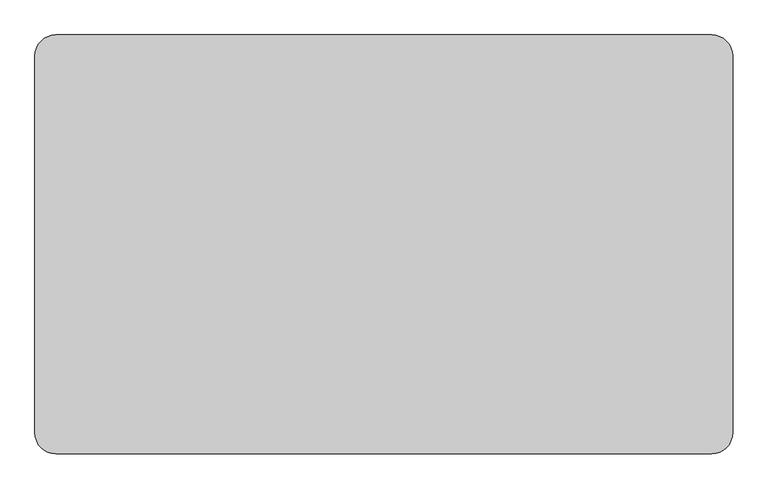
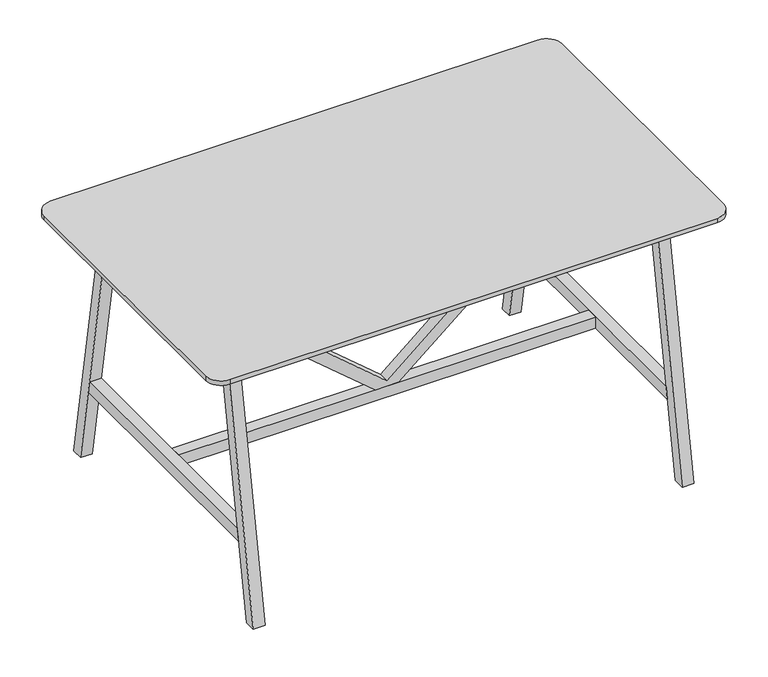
"""IFC4 building model written with IfcOpenShell, lengths in millimetres: furniture geometry, BDG_BossDesign_Tbls_AgentTables4Legs : AGE-HT-2000-1200-3D."""

from ifc_helpers import new_model, si_unit, point, frame, frame_2d, origin, place, context, project, spatial, polyline, circle_curve, trimmed, segment, composite_curve, outline, extrude, source, transform, mapped, element, save


def furniture_14f1f2da(model_context):
    return source(origin(), model_context, "Body", "SweptSolid", [
        extrude(outline(polyline([(1029.0, -805.0), (985.6193848, -805.0), (345.0, -44.0212994), (345.0, 44.0212994), (985.6193848, 805.0), (1029.0, 805.0), (1029.0, 785.1023991), (364.9999695, 0.0), (1029.0, -785.1023991), (1029.0, -805.0)])), frame((0.0, -22.5000305, 0.0), z_axis=(0.0, 1.0, 0.0), x_axis=(0.0, 0.0, 1.0)), (0.0, 0.0, 1.0), 45.000061),
        extrude(outline(polyline([(-494.7139143, 345.0), (494.7139143, 345.0), (502.5773161, 300.0), (-502.5773161, 300.0), (-494.7139143, 345.0)])), frame((805.0, 0.0, 0.0), z_axis=(1.0, 0.0, 0.0), x_axis=(0.0, 1.0, 0.0)), (0.0, 0.0, 1.0), 45.0),
        extrude(outline(polyline([(600.0, 0.0), (554.9999949, 0.0), (385.5, 970.0), (430.5000051, 970.0), (600.0, 0.0)])), frame((-850.0, 0.0, 0.0), z_axis=(1.0, 0.0, 0.0), x_axis=(0.0, 1.0, 0.0)), (0.0, 0.0, 1.0), 45.0),
        extrude(outline(polyline([(-600.0, 0.0), (-430.5000051, 970.0), (-385.5, 970.0), (-554.9999949, 0.0), (-600.0, 0.0)])), frame((-850.0, 0.0, 0.0), z_axis=(1.0, 0.0, 0.0), x_axis=(0.0, 1.0, 0.0)), (0.0, 0.0, 1.0), 45.0),
        extrude(outline(polyline([(-379.5, 1032.0), (379.5, 1032.0), (397.9691272, 960.0), (-397.9691272, 960.0), (-379.5, 1032.0)])), frame((388.0, 0.0, 0.0), z_axis=(1.0, 0.0, 0.0), x_axis=(0.0, 1.0, 0.0)), (0.0, 0.0, 1.0), 24.0),
        extrude(outline(polyline([(-494.7139143, 345.0), (494.7139143, 345.0), (502.5773161, 300.0), (-502.5773161, 300.0), (-494.7139143, 345.0)])), frame((-850.0, 0.0, 0.0), z_axis=(1.0, 0.0, 0.0), x_axis=(0.0, 1.0, 0.0)), (0.0, 0.0, 1.0), 45.0),
        extrude(outline(polyline([(-379.5, 1032.0), (379.5, 1032.0), (397.9691272, 960.0), (-397.9691272, 960.0), (-379.5, 1032.0)])), frame((-412.0, 0.0, 0.0), z_axis=(1.0, 0.0, 0.0), x_axis=(0.0, 1.0, 0.0)), (0.0, 0.0, 1.0), 24.0),
        extrude(outline(polyline([(-426.6006165, 944.973938), (-404.2770691, 1032.0), (-379.5, 1032.0), (-401.8235474, 944.973938), (-426.6006165, 944.973938)])), frame((-805.0, 0.0, 0.0), z_axis=(1.0, 0.0, 0.0), x_axis=(0.0, 1.0, 0.0)), (0.0, 0.0, 1.0), 1610.0),
        extrude(outline(polyline([(426.6006165, 944.973938), (401.8235474, 944.973938), (379.5, 1032.0), (404.2770691, 1032.0), (426.6006165, 944.973938)])), frame((-805.0, 0.0, 0.0), z_axis=(1.0, 0.0, 0.0), x_axis=(0.0, 1.0, 0.0)), (0.0, 0.0, 1.0), 1610.0),
        extrude(outline(polyline([(599.7999878, 0.0), (554.7999827, 0.0), (385.5, 970.0), (430.5000051, 970.0), (599.7999878, 0.0)])), frame((805.0, 0.0, 0.0), z_axis=(1.0, 0.0, 0.0), x_axis=(0.0, 1.0, 0.0)), (0.0, 0.0, 1.0), 45.0),
        extrude(outline(polyline([(-599.7999878, 0.0), (-430.5000051, 970.0), (-385.5, 970.0), (-554.7999827, 0.0), (-599.7999878, 0.0)])), frame((805.0, 0.0, 0.0), z_axis=(1.0, 0.0, 0.0), x_axis=(0.0, 1.0, 0.0)), (0.0, 0.0, 1.0), 45.0),
        extrude(outline(polyline([(805.0, 22.5000305), (805.0, -22.5000305), (-805.0, -22.5000305), (-805.0, 22.5000305), (805.0, 22.5000305)])), frame((0.0, 0.0, 300.0), z_axis=(0.0, 0.0, 1.0), x_axis=(1.0, 0.0, 0.0)), (0.0, 0.0, 1.0), 45.0),
        extrude(outline(composite_curve([segment(trimmed(circle_curve(frame_2d((940.0, 540.0)), 60.0), [point((940.0, 600.0))], [point((1000.0, 540.0))], False, "CARTESIAN"), True, "CONTINUOUS"), segment(polyline([(1000.0, 540.0), (1000.0, -540.0)]), True, "CONTINUOUS"), segment(trimmed(circle_curve(frame_2d((940.0, -540.0)), 60.0), [point((1000.0, -540.0))], [point((940.0, -600.0))], False, "CARTESIAN"), True, "CONTINUOUS"), segment(polyline([(940.0, -600.0), (-940.0, -600.0)]), True, "CONTINUOUS"), segment(trimmed(circle_curve(frame_2d((-940.0, -540.0)), 60.0), [point((-940.0, -600.0))], [point((-1000.0, -540.0))], False, "CARTESIAN"), True, "CONTINUOUS"), segment(polyline([(-1000.0, -540.0), (-1000.0, 540.0)]), True, "CONTINUOUS"), segment(trimmed(circle_curve(frame_2d((-940.0, 540.0)), 60.0), [point((-1000.0, 540.0))], [point((-940.0, 600.0))], False, "CARTESIAN"), True, "CONTINUOUS"), segment(polyline([(-940.0, 600.0), (940.0, 600.0)]), True, "CONTINUOUS")], self_intersect=False)), frame((0.0, 0.0, 1032.0), z_axis=(0.0, 0.0, 1.0), x_axis=(1.0, 0.0, 0.0)), (0.0, 0.0, 1.0), 18.0),
    ])


if __name__ == "__main__":
    model = new_model("IFC4")
    model_context = context("Model", 3, world=origin())
    ifc_project = project(units=[si_unit("LENGTHUNIT", "METRE", prefix="MILLI")], contexts=[model_context])
    site = spatial("IfcSite", under=ifc_project)
    building = spatial("IfcBuilding", under=site)
    placement = place(None, origin())
    furniture_shape = furniture_14f1f2da(model_context)
    element("IfcFurniture", 1, ObjectType="BDG_BossDesign_Tbls_AgentTables4Legs : AGE-HT-2000-1200-3D", at=placement, inside=building, context=model_context, shape_type="MappedRepresentation", body=[
        mapped(furniture_shape, transform((0.0, 0.0, 0.0), x_axis=(1.0, 0.0, 0.0), y_axis=(0.0, 1.0, 0.0), z_axis=(0.0, 0.0, 1.0))),
    ])
    save(model, "model.ifc")
